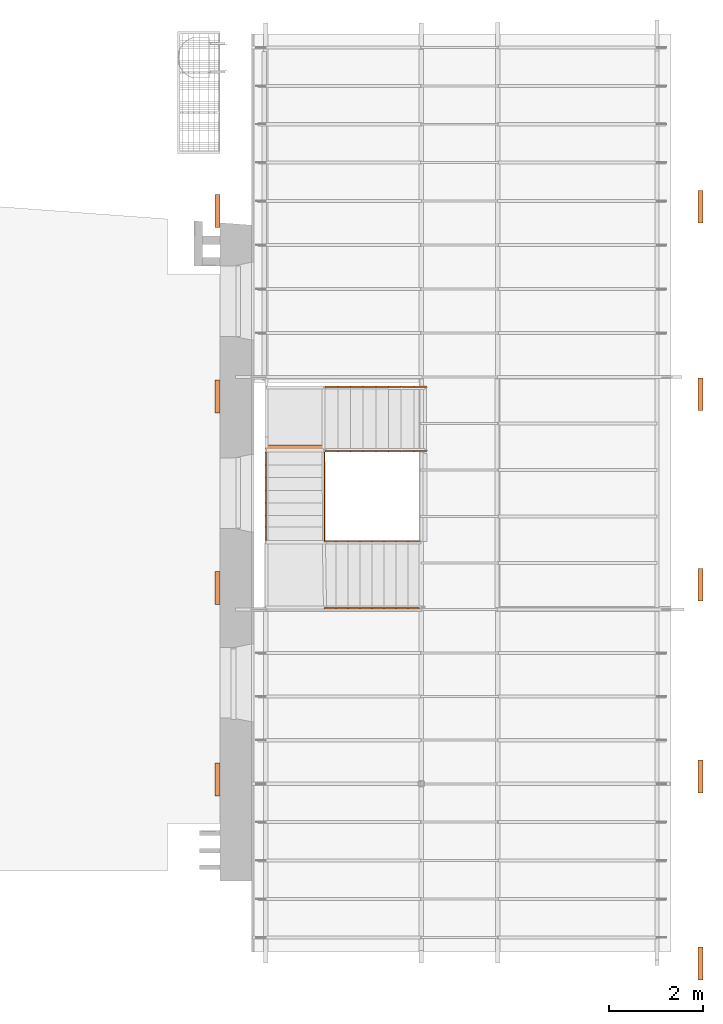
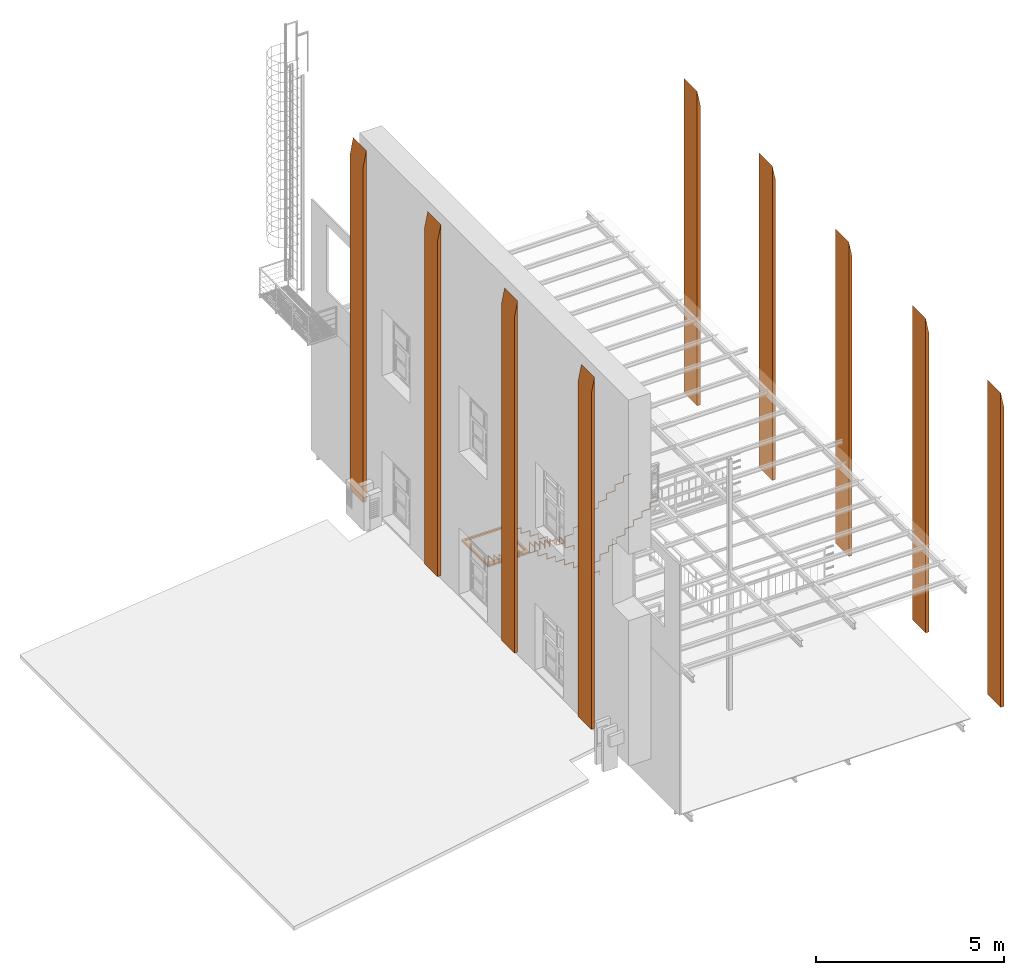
# One storey, part 31 of 33: 13 proxies.
"""IFC2X3 building model written with IfcOpenShell, lengths in metres."""

from ifc_helpers import new_model, entity, si_unit, converted_unit, derived_unit, direction, frame, origin, origin_2d_with_axis, place, context, subcontext, project, spatial, polyline, rectangle, outline, extrude, source, transform, mapped, material, material_list, type_object, type_shapes, element, save


model = new_model("IFC2X3")

# Units and contexts
model_context = context("Model", 3, precision=1e-05, world=origin(), true_north=direction((6.12303176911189e-17, 1.0)))
body_context = subcontext(model_context, "Body", "Model", "MODEL_VIEW")
ifc_project = project(units=[si_unit("LENGTHUNIT", "METRE"), si_unit("AREAUNIT", "SQUARE_METRE"), si_unit("VOLUMEUNIT", "CUBIC_METRE"), converted_unit("PLANEANGLEUNIT", "DEGREE", entity("IfcRatioMeasure", 0.0174532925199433), si_unit("PLANEANGLEUNIT", "RADIAN"), dimensions=[0, 0, 0, 0, 0, 0, 0]), si_unit("MASSUNIT", "GRAM", prefix="KILO"), derived_unit("MASSDENSITYUNIT", [(si_unit("MASSUNIT", "GRAM", prefix="KILO"), 1), (si_unit("LENGTHUNIT", "METRE"), -3)]), derived_unit("MOMENTOFINERTIAUNIT", [(si_unit("LENGTHUNIT", "METRE"), 4)]), si_unit("TIMEUNIT", "SECOND"), si_unit("FREQUENCYUNIT", "HERTZ"), si_unit("THERMODYNAMICTEMPERATUREUNIT", "DEGREE_CELSIUS"), derived_unit("THERMALTRANSMITTANCEUNIT", [(si_unit("MASSUNIT", "GRAM", prefix="KILO"), 1), (si_unit("THERMODYNAMICTEMPERATUREUNIT", "KELVIN"), -1), (si_unit("TIMEUNIT", "SECOND"), -3)]), derived_unit("VOLUMETRICFLOWRATEUNIT", [(si_unit("LENGTHUNIT", "METRE"), 3), (si_unit("TIMEUNIT", "SECOND"), -1)]), si_unit("ELECTRICCURRENTUNIT", "AMPERE"), si_unit("ELECTRICVOLTAGEUNIT", "VOLT"), si_unit("POWERUNIT", "WATT"), si_unit("FORCEUNIT", "NEWTON", prefix="KILO"), si_unit("ILLUMINANCEUNIT", "LUX"), si_unit("LUMINOUSFLUXUNIT", "LUMEN"), si_unit("LUMINOUSINTENSITYUNIT", "CANDELA"), derived_unit("USERDEFINED", [(si_unit("MASSUNIT", "GRAM", prefix="KILO"), -1), (si_unit("LENGTHUNIT", "METRE"), -2), (si_unit("TIMEUNIT", "SECOND"), 3), (si_unit("LUMINOUSFLUXUNIT", "LUMEN"), 1)]), derived_unit("LINEARVELOCITYUNIT", [(si_unit("LENGTHUNIT", "METRE"), 1), (si_unit("TIMEUNIT", "SECOND"), -1)]), si_unit("PRESSUREUNIT", "PASCAL"), derived_unit("USERDEFINED", [(si_unit("LENGTHUNIT", "METRE"), -2), (si_unit("MASSUNIT", "GRAM", prefix="KILO"), 1), (si_unit("TIMEUNIT", "SECOND"), -2)]), derived_unit("LINEARFORCEUNIT", [(si_unit("MASSUNIT", "GRAM", prefix="KILO"), 1), (si_unit("LENGTHUNIT", "METRE"), 1), (si_unit("TIMEUNIT", "SECOND"), -2), (si_unit("LENGTHUNIT", "METRE"), -1)]), derived_unit("PLANARFORCEUNIT", [(si_unit("MASSUNIT", "GRAM", prefix="KILO"), 1), (si_unit("LENGTHUNIT", "METRE"), 1), (si_unit("TIMEUNIT", "SECOND"), -2), (si_unit("LENGTHUNIT", "METRE"), -2)])], contexts=[model_context])

# Site, building, storey
site_placement = place(None, origin())
site = spatial("IfcSite", under=ifc_project, at=site_placement, Name="Superficie", CompositionType="ELEMENT")
building_placement = place(site_placement, origin())
building = spatial("IfcBuilding", under=site, at=building_placement, Name="Telegestiones", CompositionType="ELEMENT")
storey_placement = place(building_placement, frame((0.0, 0.0, 4.94)))
storey = spatial("IfcBuildingStorey", under=building, at=storey_placement, Name="Nivel 1_NPT", CompositionType="ELEMENT", Elevation=4.94)

# Proxies
ifc_material_1 = material(Name="Albañilería expuesta")
ifc_material_list_1 = material_list([ifc_material_1, ifc_material_1])
building_element_proxy_type_1 = type_object("IfcBuildingElementProxyType", Name="ARQ-MU-EXT-Lad:Tipo 1", PredefinedType="NOTDEFINED", material=ifc_material_list_1)
shared_shape_1 = source(origin(), body_context, "Body", "SweptSolid", [
    extrude(outline(polyline([(-0.333333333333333, -0.0333333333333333), (0.166666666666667, -0.0333333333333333), (0.166666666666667, 0.0666666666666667), (-0.333333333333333, -0.0333333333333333)])), frame((-0.225000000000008, 0.373333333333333, 0.166666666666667), z_axis=(1.0, 0.0, 0.0), x_axis=(0.0, 0.0, -1.0)), (0.0, 0.0, 1.0), 0.7),
    extrude(rectangle(XDim=0.1, YDim=0.7, at=origin_2d_with_axis()), frame((0.124999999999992, 0.39, -10.88), z_axis=(0.0, 0.0, 1.0), x_axis=(0.0, -1.0, 0.0)), (0.0, 0.0, 1.0), 10.88),
])
type_shapes(building_element_proxy_type_1, [shared_shape_1])
for number, where, z_axis, x_axis, name in (
    (1, (5.69428977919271, 9.85291825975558, 11.91), (0.0, 0.0, 1.0), (0.0, 1.0, 0.0), "ARQ-MU-EXT-Lad:Tipo 1"),
    (2, (5.6942897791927, 5.89860722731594, 11.91), (0.0, 0.0, 1.0), (0.0, 1.0, 0.0), "ARQ-MU-EXT-Lad:Tipo 1"),
    (3, (5.69428977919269, 1.81860722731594, 11.91), (0.0, 0.0, 1.0), (0.0, 1.0, 0.0), "ARQ-MU-EXT-Lad:Tipo 1"),
    (4, (5.69428977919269, -2.26139277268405, 11.91), (0.0, 0.0, 1.0), (0.0, 1.0, 0.0), "ARQ-MU-EXT-Lad:Tipo 1"),
):
    element("IfcBuildingElementProxy", number, at=place(storey_placement, frame(where, z_axis=z_axis, x_axis=x_axis)), inside=storey, type_object=building_element_proxy_type_1, material=ifc_material_1, Name=name, ObjectType="ARQ-MU-EXT-Lad:Tipo 1", context=body_context, shape_type="MappedRepresentation", body=[
        mapped(shared_shape_1, transform((0.0, 0.0, 0.0), scale=1.0)),
    ])
ifc_material_list_2 = material_list([ifc_material_1, ifc_material_1])
ifc_material_list_3 = material_list([ifc_material_1, ifc_material_1])
building_element_proxy_type_2 = type_object("IfcBuildingElementProxyType", Name="ARQ-MU-EXT-Lad:Tipo 1", PredefinedType="NOTDEFINED", material=ifc_material_list_3)
shared_shape_2 = source(origin(), body_context, "Body", "SweptSolid", [
    extrude(outline(polyline([(-0.333333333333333, -0.0333333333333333), (0.166666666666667, -0.0333333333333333), (0.166666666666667, 0.0666666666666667), (-0.333333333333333, -0.0333333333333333)])), frame((-0.225000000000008, 0.323333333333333, 0.166666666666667), z_axis=(1.0, 0.0, 0.0), x_axis=(0.0, 0.0, -1.0)), (0.0, 0.0, 1.0), 0.7),
    extrude(rectangle(XDim=0.1, YDim=0.7, at=origin_2d_with_axis()), frame((0.124999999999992, 0.34, -9.69999999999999), z_axis=(0.0, 0.0, 1.0), x_axis=(0.0, -1.0, 0.0)), (0.0, 0.0, 1.0), 9.69999999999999),
])
type_shapes(building_element_proxy_type_2, [shared_shape_2])
proxy_1_placement = place(storey_placement, frame((15.2548126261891, 10.189563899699, 10.21), z_axis=(0.0, 0.0, 1.0), x_axis=(0.0, -1.0, 0.0)))
element("IfcBuildingElementProxy", 5, at=proxy_1_placement, inside=storey, type_object=building_element_proxy_type_2, material=ifc_material_list_2, Name="ARQ-MU-EXT-Lad:Tipo 1", ObjectType="ARQ-MU-EXT-Lad:Tipo 1", context=body_context, shape_type="MappedRepresentation", body=[
    mapped(shared_shape_2, transform((0.0, 0.0, 0.0), scale=1.0)),
])
for number, where, z_axis, x_axis, name in (
    (6, (15.2548126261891, 6.19706389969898, 10.21), (0.0, 0.0, 1.0), (0.0, -1.0, 0.0), "ARQ-MU-EXT-Lad:Tipo 1"),
    (7, (15.2548126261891, -5.93136712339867, 10.2100000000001), (0.0, 0.0, 1.0), (0.0, -1.0, 0.0), "ARQ-MU-EXT-Lad:Tipo 1"),
    (8, (15.2548126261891, 2.13706389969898, 10.21), (0.0, 0.0, 1.0), (0.0, -1.0, 0.0), "ARQ-MU-EXT-Lad:Tipo 1"),
    (9, (15.2548126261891, -1.94293610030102, 10.21), (0.0, 0.0, 1.0), (0.0, -1.0, 0.0), "ARQ-MU-EXT-Lad:Tipo 1"),
):
    element("IfcBuildingElementProxy", number, at=place(storey_placement, frame(where, z_axis=z_axis, x_axis=x_axis)), inside=storey, type_object=building_element_proxy_type_2, material=ifc_material_1, Name=name, ObjectType="ARQ-MU-EXT-Lad:Tipo 1", context=body_context, shape_type="MappedRepresentation", body=[
        mapped(shared_shape_2, transform((0.0, 0.0, 0.0), scale=1.0)),
    ])
ifc_material_2 = material(Name="Metal-Acero")
building_element_proxy_type_3 = type_object("IfcBuildingElementProxyType", Name="Armazón estructural 2:Armazón estructural 1", PredefinedType="NOTDEFINED", material=ifc_material_2)
shared_shape_3 = source(origin(), body_context, "Body", "SweptSolid", [
    extrude(outline(polyline([(-0.700133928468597, -0.642392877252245), (0.700133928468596, -0.642392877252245), (0.700133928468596, 0.642392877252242), (-0.700133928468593, 0.642392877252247), (-0.700133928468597, -0.642392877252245)]), holes=[polyline([(0.640133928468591, -0.582392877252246), (-0.559848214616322, -0.582392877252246), (-0.559848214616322, 0.582392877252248), (0.640133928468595, 0.582392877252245), (0.640133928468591, -0.582392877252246)])]), frame((6.95435550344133, 5.54449115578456, 6.40316245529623), z_axis=(2.42492343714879e-07, 0.0, 1.0), x_axis=(0.0, 1.0, 0.0)), (0.0, 0.0, 1.0), 0.0564876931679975),
])
type_shapes(building_element_proxy_type_3, [shared_shape_3])
proxy_2_placement = place(storey_placement, frame((0.0, 0.0, -4.94)))
element("IfcBuildingElementProxy", 10, at=proxy_2_placement, inside=storey, type_object=building_element_proxy_type_3, material=ifc_material_2, Name="Armazón estructural 2:Armazón estructural 1", ObjectType="Armazón estructural 2:Armazón estructural 1", context=body_context, shape_type="MappedRepresentation", body=[
    mapped(shared_shape_3, transform((0.0, 0.0, 0.0), scale=1.0)),
])
ifc_material_3 = material(Name="Acero")
ifc_material_list_4 = material_list([ifc_material_3, ifc_material_3])
ifc_material_list_5 = material_list([ifc_material_3, ifc_material_3])
building_element_proxy_type_4 = type_object("IfcBuildingElementProxyType", Name="Perfiles escalera1:Perfiles escalera", PredefinedType="NOTDEFINED", material=ifc_material_list_5)
shared_shape_4 = source(origin(), body_context, "Body", "SweptSolid", [
    extrude(outline(polyline([(-0.839805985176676, -0.917740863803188), (-0.480558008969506, -0.917740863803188), (-0.480558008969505, -0.633455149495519), (-0.290558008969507, -0.633455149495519), (-0.290558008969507, -0.36631229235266), (-0.100558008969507, -0.36631229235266), (-0.100558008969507, -0.0991694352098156), (0.0894419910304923, -0.0991694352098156), (0.0894419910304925, 0.167973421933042), (0.279441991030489, 0.167973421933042), (0.27944199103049, 0.435116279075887), (0.469441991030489, 0.435116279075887), (0.469441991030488, 0.685116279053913), (0.659441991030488, 0.685116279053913), (0.659441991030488, 0.975116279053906), (0.649441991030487, 0.975116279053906), (0.649441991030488, 0.695116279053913), (0.415666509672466, 0.695116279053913), (0.407613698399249, 0.685116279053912), (0.459441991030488, 0.685116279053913), (0.459441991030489, 0.445116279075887), (0.220875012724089, 0.445116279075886), (0.212822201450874, 0.435116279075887), (0.269441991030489, 0.435116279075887), (0.269441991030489, 0.177973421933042), (0.0126761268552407, 0.177973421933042), (0.00495332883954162, 0.167973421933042), (0.0794419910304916, 0.167973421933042), (0.0794419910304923, -0.0891694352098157), (-0.193592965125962, -0.0891694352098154), (-0.201315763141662, -0.0991694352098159), (-0.110558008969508, -0.0991694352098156), (-0.110558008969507, -0.35631229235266), (-0.402698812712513, -0.35631229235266), (-0.410421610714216, -0.366312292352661), (-0.300558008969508, -0.36631229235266), (-0.300558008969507, -0.623455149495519), (-0.610556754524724, -0.623455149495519), (-0.618279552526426, -0.633455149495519), (-0.490558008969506, -0.633455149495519), (-0.490558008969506, -0.907740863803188), (-0.831753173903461, -0.907740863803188), (-0.839805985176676, -0.917740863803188)])), frame((6.31881262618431, 3.92686636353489, 7.27055800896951), z_axis=(1.0, 0.0, 0.0), x_axis=(0.0, 0.0, 1.0)), (0.0, 0.0, 1.0), 0.0299999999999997),
    extrude(outline(polyline([(-0.839805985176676, -0.91774086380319), (-0.480558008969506, -0.91774086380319), (-0.480558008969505, -0.633455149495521), (-0.290558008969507, -0.633455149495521), (-0.290558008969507, -0.366312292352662), (-0.100558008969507, -0.366312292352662), (-0.100558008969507, -0.0991694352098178), (0.0894419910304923, -0.0991694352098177), (0.0894419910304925, 0.16797342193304), (0.279441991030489, 0.16797342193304), (0.27944199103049, 0.435116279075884), (0.469441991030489, 0.435116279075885), (0.469441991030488, 0.68511627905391), (0.659441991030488, 0.68511627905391), (0.659441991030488, 0.975116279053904), (0.649441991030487, 0.975116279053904), (0.649441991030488, 0.69511627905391), (0.415666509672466, 0.695116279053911), (0.407613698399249, 0.68511627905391), (0.459441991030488, 0.68511627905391), (0.459441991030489, 0.445116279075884), (0.220875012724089, 0.445116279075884), (0.212822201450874, 0.435116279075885), (0.269441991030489, 0.435116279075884), (0.269441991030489, 0.17797342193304), (0.0126761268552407, 0.17797342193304), (0.00495332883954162, 0.16797342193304), (0.0794419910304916, 0.16797342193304), (0.0794419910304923, -0.0891694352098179), (-0.193592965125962, -0.0891694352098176), (-0.201315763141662, -0.0991694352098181), (-0.110558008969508, -0.0991694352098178), (-0.110558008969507, -0.356312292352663), (-0.402698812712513, -0.356312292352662), (-0.410421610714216, -0.366312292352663), (-0.300558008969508, -0.366312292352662), (-0.300558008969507, -0.623455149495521), (-0.610556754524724, -0.623455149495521), (-0.618279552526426, -0.633455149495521), (-0.490558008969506, -0.633455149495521), (-0.490558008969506, -0.90774086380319), (-0.831753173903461, -0.90774086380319), (-0.839805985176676, -0.91774086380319)])), frame((7.5695983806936, 3.92686636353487, 7.27055800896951), z_axis=(1.0, 0.0, 0.0), x_axis=(0.0, 0.0, 1.0)), (0.0, 0.0, 1.0), 0.0299999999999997),
])
type_shapes(building_element_proxy_type_4, [shared_shape_4])
proxy_3_placement = place(storey_placement, frame((0.0, 0.0, -4.94)))
element("IfcBuildingElementProxy", 11, at=proxy_3_placement, inside=storey, type_object=building_element_proxy_type_4, material=ifc_material_list_4, Name="Perfiles escalera1:Perfiles escalera", ObjectType="Perfiles escalera1:Perfiles escalera", context=body_context, shape_type="MappedRepresentation", body=[
    mapped(shared_shape_4, transform((0.0, 0.0, 0.0), scale=1.0)),
])
ifc_material_4 = material(Name="391846a9_3117_44ae_832e_53e94a79c5b7")
ifc_material_list_6 = material_list([ifc_material_4, ifc_material_4, ifc_material_4, ifc_material_4])
ifc_material_list_7 = material_list([ifc_material_4, ifc_material_4, ifc_material_4, ifc_material_4])
building_element_proxy_type_5 = type_object("IfcBuildingElementProxyType", Name="Armazón estructural 6:Armazón estructural 3", PredefinedType="NOTDEFINED", material=ifc_material_list_7)
shared_shape_5 = source(origin(), body_context, "Body", "SweptSolid", [
    extrude(outline(polyline([(-0.147559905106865, -0.0517729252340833), (-0.147559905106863, -0.320013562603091), (-0.137559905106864, -0.305803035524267), (-0.137559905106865, -0.0617729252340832), (0.0524400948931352, -0.0617729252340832), (0.0524400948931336, 0.208227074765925), (0.190239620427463, 0.208227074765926), (0.190239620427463, 0.218227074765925), (0.0424400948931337, 0.218227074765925), (0.0424400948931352, -0.0517729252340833), (-0.147559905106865, -0.0517729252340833)])), frame((9.54058555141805, 4.84460722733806, 5.12244009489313), z_axis=(0.0, -1.0, 0.0), x_axis=(0.0, 0.0, -1.0)), (0.0, 0.0, -1.0), 0.0300000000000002),
    extrude(outline(polyline([(-0.866931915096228, -0.530301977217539), (-0.597717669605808, -0.530301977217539), (-0.597717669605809, -0.340301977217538), (-0.327717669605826, -0.340301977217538), (-0.327717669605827, -0.150301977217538), (-0.0577176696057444, -0.150301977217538), (-0.0577176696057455, 0.0396980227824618), (0.212282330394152, 0.0396980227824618), (0.212282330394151, 0.229698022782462), (0.482282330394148, 0.229698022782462), (0.482282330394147, 0.419698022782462), (0.752054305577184, 0.419698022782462), (0.752054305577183, 0.607190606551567), (0.742054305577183, 0.600056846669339), (0.742054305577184, 0.429698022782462), (0.472282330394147, 0.429698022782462), (0.472282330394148, 0.239698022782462), (0.202282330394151, 0.239698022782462), (0.202282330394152, 0.0496980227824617), (-0.0677176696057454, 0.0496980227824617), (-0.0677176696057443, -0.140301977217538), (-0.337717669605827, -0.140301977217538), (-0.337717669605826, -0.330301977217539), (-0.607717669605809, -0.330301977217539), (-0.607717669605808, -0.520301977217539), (-0.866931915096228, -0.520301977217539), (-0.866931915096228, -0.530301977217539)])), frame((8.46653029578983, 4.84460722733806, 5.87969802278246), z_axis=(0.0, 1.0, 0.0), x_axis=(1.0, 0.0, 0.0)), (0.0, 0.0, 1.0), 0.0300000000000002),
    extrude(outline(polyline([(-0.147559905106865, -0.0517729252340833), (-0.147559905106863, -0.320013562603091), (-0.137559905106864, -0.305803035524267), (-0.137559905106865, -0.0617729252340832), (0.0524400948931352, -0.0617729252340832), (0.0524400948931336, 0.208227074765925), (0.190239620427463, 0.208227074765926), (0.190239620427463, 0.218227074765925), (0.0424400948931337, 0.218227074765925), (0.0424400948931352, -0.0517729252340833), (-0.147559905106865, -0.0517729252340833)])), frame((9.54058555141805, 6.21462508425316, 5.12244009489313), z_axis=(0.0, -1.0, 0.0), x_axis=(0.0, 0.0, -1.0)), (0.0, 0.0, -1.0), 0.0299999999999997),
    extrude(outline(polyline([(-0.866931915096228, -0.530301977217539), (-0.597717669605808, -0.530301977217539), (-0.597717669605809, -0.340301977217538), (-0.327717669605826, -0.340301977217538), (-0.327717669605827, -0.150301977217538), (-0.0577176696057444, -0.150301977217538), (-0.0577176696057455, 0.0396980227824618), (0.212282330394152, 0.0396980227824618), (0.212282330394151, 0.229698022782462), (0.482282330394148, 0.229698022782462), (0.482282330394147, 0.419698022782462), (0.752054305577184, 0.419698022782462), (0.752054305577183, 0.607190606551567), (0.742054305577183, 0.600056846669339), (0.742054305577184, 0.429698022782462), (0.472282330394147, 0.429698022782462), (0.472282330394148, 0.239698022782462), (0.202282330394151, 0.239698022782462), (0.202282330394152, 0.0496980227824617), (-0.0677176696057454, 0.0496980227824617), (-0.0677176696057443, -0.140301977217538), (-0.337717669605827, -0.140301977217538), (-0.337717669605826, -0.330301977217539), (-0.607717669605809, -0.330301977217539), (-0.607717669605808, -0.520301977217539), (-0.866931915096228, -0.520301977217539), (-0.866931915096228, -0.530301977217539)])), frame((8.46653029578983, 6.21462508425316, 5.87969802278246), z_axis=(0.0, 1.0, 0.0), x_axis=(1.0, 0.0, 0.0)), (0.0, 0.0, 1.0), 0.0299999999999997),
])
type_shapes(building_element_proxy_type_5, [shared_shape_5])
proxy_4_placement = place(storey_placement, frame((0.0, 0.0, -4.94)))
element("IfcBuildingElementProxy", 12, at=proxy_4_placement, inside=storey, type_object=building_element_proxy_type_5, material=ifc_material_list_6, Name="Armazón estructural 6:Armazón estructural 3", ObjectType="Armazón estructural 6:Armazón estructural 3", context=body_context, shape_type="MappedRepresentation", body=[
    mapped(shared_shape_5, transform((0.0, 0.0, 0.0), scale=1.0)),
])
ifc_material_list_8 = material_list([ifc_material_4, ifc_material_4])
ifc_material_list_9 = material_list([ifc_material_4, ifc_material_4])
building_element_proxy_type_6 = type_object("IfcBuildingElementProxyType", Name="Armazón estructural 8:Armazón estructural 7", PredefinedType="NOTDEFINED", material=ifc_material_list_9)
shared_shape_6 = source(origin(), body_context, "Body", "SweptSolid", [
    extrude(outline(polyline([(0.8233807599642, -0.718654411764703), (1.07438075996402, -0.718654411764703), (1.07438075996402, -0.708654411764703), (0.8333807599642, -0.708654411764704), (0.8333807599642, -0.518654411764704), (0.577235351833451, -0.518654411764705), (0.577235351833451, -0.328654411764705), (0.321089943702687, -0.328654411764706), (0.321089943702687, -0.138654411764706), (0.0649445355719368, -0.138654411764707), (0.0649445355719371, 0.0513455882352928), (-0.191200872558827, 0.0513455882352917), (-0.191200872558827, 0.241345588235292), (-0.440063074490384, 0.241345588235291), (-0.440063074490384, 0.431345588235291), (-0.703491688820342, 0.43134558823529), (-0.703491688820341, 0.62134558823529), (-0.959085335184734, 0.621345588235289), (-0.959085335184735, 0.778470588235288), (-0.969085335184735, 0.778470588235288), (-0.969085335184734, 0.611345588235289), (-0.713491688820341, 0.61134558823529), (-0.713491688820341, 0.421345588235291), (-0.450063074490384, 0.421345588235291), (-0.450063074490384, 0.231345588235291), (-0.201200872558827, 0.231345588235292), (-0.201200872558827, 0.0413455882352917), (0.0549445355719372, 0.0413455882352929), (0.054944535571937, -0.148654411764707), (0.311089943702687, -0.148654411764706), (0.311089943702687, -0.338654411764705), (0.567235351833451, -0.338654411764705), (0.567235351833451, -0.528654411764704), (0.8233807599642, -0.528654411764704), (0.8233807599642, -0.718654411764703)])), frame((8.53843428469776, 1.49634260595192, 8.73134558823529), z_axis=(0.0, 1.0, 0.0), x_axis=(1.0, 0.0, 0.0)), (0.0, 0.0, 1.0), 0.0299999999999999),
    extrude(outline(polyline([(0.823380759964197, -0.718654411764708), (1.07438075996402, -0.718654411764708), (1.07438075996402, -0.708654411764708), (0.833380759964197, -0.708654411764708), (0.833380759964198, -0.518654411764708), (0.577235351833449, -0.518654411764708), (0.57723535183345, -0.328654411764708), (0.321089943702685, -0.328654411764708), (0.321089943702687, -0.138654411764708), (0.0649445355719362, -0.138654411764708), (0.0649445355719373, 0.0513455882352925), (-0.191200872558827, 0.0513455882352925), (-0.191200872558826, 0.241345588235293), (-0.440063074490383, 0.241345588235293), (-0.440063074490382, 0.431345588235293), (-0.70349168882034, 0.431345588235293), (-0.703491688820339, 0.621345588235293), (-0.959085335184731, 0.621345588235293), (-0.959085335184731, 0.778470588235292), (-0.969085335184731, 0.778470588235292), (-0.969085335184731, 0.611345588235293), (-0.713491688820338, 0.611345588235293), (-0.713491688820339, 0.421345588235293), (-0.450063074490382, 0.421345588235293), (-0.450063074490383, 0.231345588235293), (-0.201200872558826, 0.231345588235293), (-0.201200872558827, 0.0413455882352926), (0.0549445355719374, 0.0413455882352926), (0.0549445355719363, -0.148654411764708), (0.311089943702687, -0.148654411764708), (0.311089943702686, -0.338654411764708), (0.56723535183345, -0.338654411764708), (0.567235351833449, -0.528654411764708), (0.823380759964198, -0.528654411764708), (0.823380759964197, -0.718654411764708)])), frame((8.53843428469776, 2.92175008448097, 8.73134558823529), z_axis=(0.0, 1.0, 0.0), x_axis=(1.0, 0.0, 0.0)), (0.0, 0.0, 1.0), 0.0300000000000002),
])
type_shapes(building_element_proxy_type_6, [shared_shape_6])
proxy_5_placement = place(storey_placement, frame((0.0, 0.0, -4.94)))
element("IfcBuildingElementProxy", 13, at=proxy_5_placement, inside=storey, type_object=building_element_proxy_type_6, material=ifc_material_list_8, Name="Armazón estructural 8:Armazón estructural 7", ObjectType="Armazón estructural 8:Armazón estructural 7", context=body_context, shape_type="MappedRepresentation", body=[
    mapped(shared_shape_6, transform((0.0, 0.0, 0.0), scale=1.0)),
])

save(model, "model.ifc")
